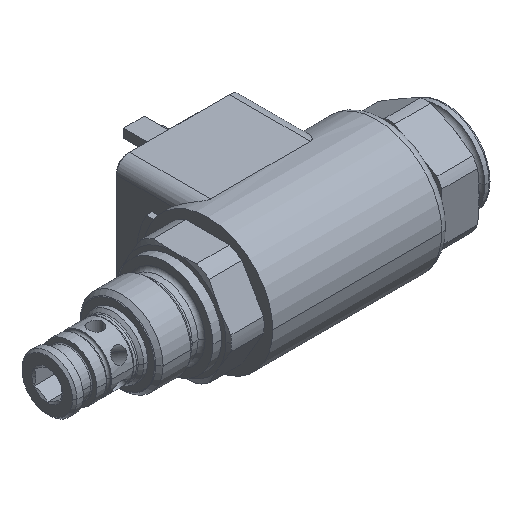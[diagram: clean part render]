
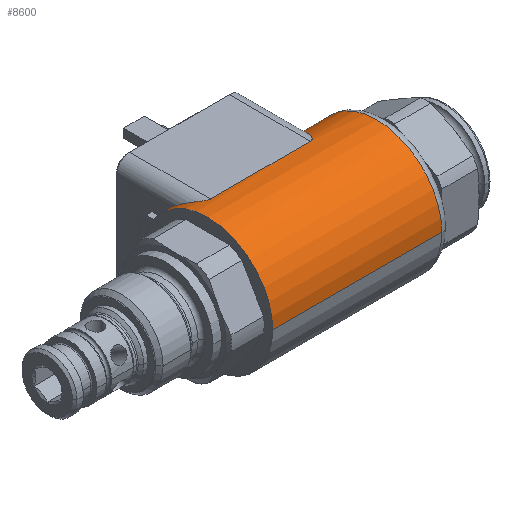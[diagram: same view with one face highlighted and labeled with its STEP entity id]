
A CAD part, isometric view. The second image highlights one B-rep face of the part: STEP entity #8600.
In plain terms, the highlighted cylindrical face has radius 15 mm (diameter 30 mm), a partial arc.
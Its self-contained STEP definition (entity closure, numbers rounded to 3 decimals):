
#7103=CARTESIAN_POINT('',(0.,0.,0.));
#7104=DIRECTION('',(1.,0.,0.));
#7105=DIRECTION('',(0.,1.,0.));
#7106=AXIS2_PLACEMENT_3D('',#7103,#7104,#7105);
#7135=DIRECTION('',(-1.,0.,0.));
#7136=VECTOR('',#7135,0.2);
#7137=CARTESIAN_POINT('',(0.2,15.,0.));
#7138=LINE('',#7137,#7136);
#7142=DIRECTION('',(-1.,0.,0.));
#7143=VECTOR('',#7142,39.);
#7144=CARTESIAN_POINT('',(39.,-15.,0.));
#7145=LINE('',#7144,#7143);
#7157=DIRECTION('',(-1.,0.,0.));
#7158=VECTOR('',#7157,8.5);
#7159=CARTESIAN_POINT('',(39.,15.,0.));
#7160=LINE('',#7159,#7158);
#7280=CARTESIAN_POINT('',(0.2,0.,0.));
#7281=DIRECTION('',(1.,0.,0.));
#7282=DIRECTION('',(0.,1.,0.));
#7283=AXIS2_PLACEMENT_3D('',#7280,#7281,#7282);
#7288=DIRECTION('',(1.,0.,0.));
#7289=VECTOR('',#7288,1.3);
#7290=CARTESIAN_POINT('',(0.2,12.593,8.15));
#7291=LINE('',#7290,#7289);
#7295=CARTESIAN_POINT('',(1.5,0.,0.));
#7296=DIRECTION('',(1.,0.,0.));
#7297=DIRECTION('',(0.,0.84,0.543));
#7298=AXIS2_PLACEMENT_3D('',#7295,#7296,#7297);
#7303=CARTESIAN_POINT('',(1.5,9.631,11.5));
#7304=CARTESIAN_POINT('',(1.5,9.524,11.589));
#7305=CARTESIAN_POINT('',(1.508,9.31,11.764));
#7306=CARTESIAN_POINT('',(1.541,8.983,12.015));
#7307=CARTESIAN_POINT('',(1.593,8.651,12.256));
#7308=CARTESIAN_POINT('',(1.664,8.313,12.488));
#7309=CARTESIAN_POINT('',(1.752,7.967,12.712));
#7310=CARTESIAN_POINT('',(1.86,7.603,12.933));
#7311=CARTESIAN_POINT('',(1.992,7.215,13.154));
#7312=CARTESIAN_POINT('',(2.155,6.789,13.379));
#7313=CARTESIAN_POINT('',(2.344,6.35,13.592));
#7314=CARTESIAN_POINT('',(2.527,5.967,13.764));
#7315=CARTESIAN_POINT('',(2.696,5.642,13.9));
#7316=CARTESIAN_POINT('',(2.859,5.351,14.014));
#7317=CARTESIAN_POINT('',(3.018,5.091,14.11));
#7318=CARTESIAN_POINT('',(3.17,4.862,14.191));
#7319=CARTESIAN_POINT('',(3.316,4.661,14.258));
#7320=CARTESIAN_POINT('',(3.456,4.487,14.314));
#7321=CARTESIAN_POINT('',(3.59,4.336,14.36));
#7322=CARTESIAN_POINT('',(3.721,4.207,14.398));
#7323=CARTESIAN_POINT('',(3.848,4.099,14.429));
#7324=CARTESIAN_POINT('',(3.97,4.012,14.454));
#7325=CARTESIAN_POINT('',(4.086,3.945,14.472));
#7326=CARTESIAN_POINT('',(4.197,3.896,14.485));
#7327=CARTESIAN_POINT('',(4.302,3.863,14.494));
#7328=CARTESIAN_POINT('',(4.403,3.844,14.499));
#7329=CARTESIAN_POINT('',(4.468,3.841,14.5));
#7330=CARTESIAN_POINT('',(4.5,3.841,14.5));
#7335=DIRECTION('',(1.,0.,0.));
#7336=VECTOR('',#7335,23.);
#7337=CARTESIAN_POINT('',(4.5,3.841,14.5));
#7338=LINE('',#7337,#7336);
#7342=CARTESIAN_POINT('',(27.5,3.841,14.5));
#7343=CARTESIAN_POINT('',(27.532,3.841,14.5));
#7344=CARTESIAN_POINT('',(27.597,3.844,14.499));
#7345=CARTESIAN_POINT('',(27.698,3.863,14.494));
#7346=CARTESIAN_POINT('',(27.803,3.895,14.485));
#7347=CARTESIAN_POINT('',(27.913,3.944,14.472));
#7348=CARTESIAN_POINT('',(28.029,4.011,14.454));
#7349=CARTESIAN_POINT('',(28.151,4.098,14.43));
#7350=CARTESIAN_POINT('',(28.277,4.206,14.399));
#7351=CARTESIAN_POINT('',(28.408,4.335,14.36));
#7352=CARTESIAN_POINT('',(28.542,4.484,14.314));
#7353=CARTESIAN_POINT('',(28.682,4.658,14.259));
#7354=CARTESIAN_POINT('',(28.827,4.858,14.192));
#7355=CARTESIAN_POINT('',(28.979,5.086,14.112));
#7356=CARTESIAN_POINT('',(29.137,5.345,14.016));
#7357=CARTESIAN_POINT('',(29.3,5.634,13.903));
#7358=CARTESIAN_POINT('',(29.468,5.956,13.768));
#7359=CARTESIAN_POINT('',(29.65,6.337,13.598));
#7360=CARTESIAN_POINT('',(29.841,6.779,13.384));
#7361=CARTESIAN_POINT('',(30.006,7.209,13.157));
#7362=CARTESIAN_POINT('',(30.139,7.6,12.934));
#7363=CARTESIAN_POINT('',(30.248,7.967,12.712));
#7364=CARTESIAN_POINT('',(30.337,8.315,12.487));
#7365=CARTESIAN_POINT('',(30.407,8.653,12.255));
#7366=CARTESIAN_POINT('',(30.459,8.984,12.014));
#7367=CARTESIAN_POINT('',(30.492,9.31,11.764));
#7368=CARTESIAN_POINT('',(30.5,9.524,11.589));
#7369=CARTESIAN_POINT('',(30.5,9.631,11.5));
#7374=CARTESIAN_POINT('',(30.5,0.,0.));
#7375=DIRECTION('',(1.,0.,0.));
#7376=DIRECTION('',(0.,1.,0.));
#7377=AXIS2_PLACEMENT_3D('',#7374,#7375,#7376);
#7382=CARTESIAN_POINT('',(39.,0.,0.));
#7383=DIRECTION('',(1.,0.,0.));
#7384=DIRECTION('',(0.,1.,0.));
#7385=AXIS2_PLACEMENT_3D('',#7382,#7383,#7384);
#8292=CARTESIAN_POINT('',(39.,-15.,0.));
#8293=CARTESIAN_POINT('',(0.,-15.,0.));
#8294=VERTEX_POINT('',#8292);
#8295=VERTEX_POINT('',#8293);
#8296=CARTESIAN_POINT('',(4.5,3.841,14.5));
#8297=CARTESIAN_POINT('',(27.5,3.841,14.5));
#8298=VERTEX_POINT('',#8296);
#8299=VERTEX_POINT('',#8297);
#8300=VERTEX_POINT('',#7369);
#8301=CARTESIAN_POINT('',(30.5,15.,0.));
#8302=VERTEX_POINT('',#8301);
#8303=VERTEX_POINT('',#7303);
#8310=CARTESIAN_POINT('',(39.,15.,0.));
#8311=VERTEX_POINT('',#8310);
#8392=CARTESIAN_POINT('',(0.,15.,0.));
#8393=VERTEX_POINT('',#8392);
#8446=CARTESIAN_POINT('',(1.5,12.593,8.15));
#8447=VERTEX_POINT('',#8446);
#8448=CARTESIAN_POINT('',(0.2,15.,0.));
#8449=CARTESIAN_POINT('',(0.2,12.593,8.15));
#8450=VERTEX_POINT('',#8448);
#8451=VERTEX_POINT('',#8449);
#8574=CARTESIAN_POINT('',(-2.05,0.,0.));
#8575=DIRECTION('',(1.,0.,0.));
#8576=DIRECTION('',(0.,-1.,0.));
#8577=AXIS2_PLACEMENT_3D('',#8574,#8575,#8576);
#8578=CYLINDRICAL_SURFACE('',#8577,15.);
#8579=ORIENTED_EDGE('',*,*,#8550,.T.);
#8581=ORIENTED_EDGE('',*,*,#8580,.T.);
#8583=ORIENTED_EDGE('',*,*,#8582,.T.);
#8585=ORIENTED_EDGE('',*,*,#8584,.T.);
#8587=ORIENTED_EDGE('',*,*,#8586,.T.);
#8589=ORIENTED_EDGE('',*,*,#8588,.T.);
#8591=ORIENTED_EDGE('',*,*,#8590,.F.);
#8592=ORIENTED_EDGE('',*,*,#8521,.F.);
#8594=ORIENTED_EDGE('',*,*,#8593,.T.);
#8595=ORIENTED_EDGE('',*,*,#8517,.T.);
#8596=ORIENTED_EDGE('',*,*,#8489,.F.);
#8597=ORIENTED_EDGE('',*,*,#8514,.F.);
#8598=EDGE_LOOP('',(#8579,#8581,#8583,#8585,#8587,#8589,#8591,#8592,#8594,#8595,
#8596,#8597));
#8599=FACE_OUTER_BOUND('',#8598,.F.);
#7107=CIRCLE('',#7106,15.);
#7284=CIRCLE('',#7283,15.);
#7299=CIRCLE('',#7298,15.);
#7331=B_SPLINE_CURVE_WITH_KNOTS('',3,(#7303,#7304,#7305,#7306,#7307,#7308,#7309,
#7310,#7311,#7312,#7313,#7314,#7315,#7316,#7317,#7318,#7319,#7320,#7321,#7322,
#7323,#7324,#7325,#7326,#7327,#7328,#7329,#7330),.UNSPECIFIED.,.F.,.F.,(4,1,1,1,
1,1,1,1,1,1,1,1,1,1,1,1,1,1,1,1,1,1,1,1,1,4),(0.,0.04,0.08,0.12,0.16,
0.2,0.24,0.28,0.32,0.36,0.4,0.44,0.48,0.52,0.56,0.6,
0.64,0.68,0.72,0.76,0.8,0.84,0.88,0.92,0.96,1.),
.UNSPECIFIED.);
#7370=B_SPLINE_CURVE_WITH_KNOTS('',3,(#7342,#7343,#7344,#7345,#7346,#7347,#7348,
#7349,#7350,#7351,#7352,#7353,#7354,#7355,#7356,#7357,#7358,#7359,#7360,#7361,
#7362,#7363,#7364,#7365,#7366,#7367,#7368,#7369),.UNSPECIFIED.,.F.,.F.,(4,1,1,1,
1,1,1,1,1,1,1,1,1,1,1,1,1,1,1,1,1,1,1,1,1,4),(0.,0.04,0.08,0.12,0.16,
0.2,0.24,0.28,0.32,0.36,0.4,0.44,0.48,0.52,0.56,0.6,
0.64,0.68,0.72,0.76,0.8,0.84,0.88,0.92,0.96,1.),
.UNSPECIFIED.);
#7378=CIRCLE('',#7377,15.);
#7386=CIRCLE('',#7385,15.);
#8489=EDGE_CURVE('',#8393,#8295,#7107,.T.);
#8514=EDGE_CURVE('',#8450,#8393,#7138,.T.);
#8517=EDGE_CURVE('',#8294,#8295,#7145,.T.);
#8521=EDGE_CURVE('',#8311,#8302,#7160,.T.);
#8550=EDGE_CURVE('',#8450,#8451,#7284,.T.);
#8580=EDGE_CURVE('',#8451,#8447,#7291,.T.);
#8582=EDGE_CURVE('',#8447,#8303,#7299,.T.);
#8584=EDGE_CURVE('',#8303,#8298,#7331,.T.);
#8586=EDGE_CURVE('',#8298,#8299,#7338,.T.);
#8588=EDGE_CURVE('',#8299,#8300,#7370,.T.);
#8590=EDGE_CURVE('',#8302,#8300,#7378,.T.);
#8593=EDGE_CURVE('',#8311,#8294,#7386,.T.);
#8600=ADVANCED_FACE('',(#8599),#8578,.T.);
